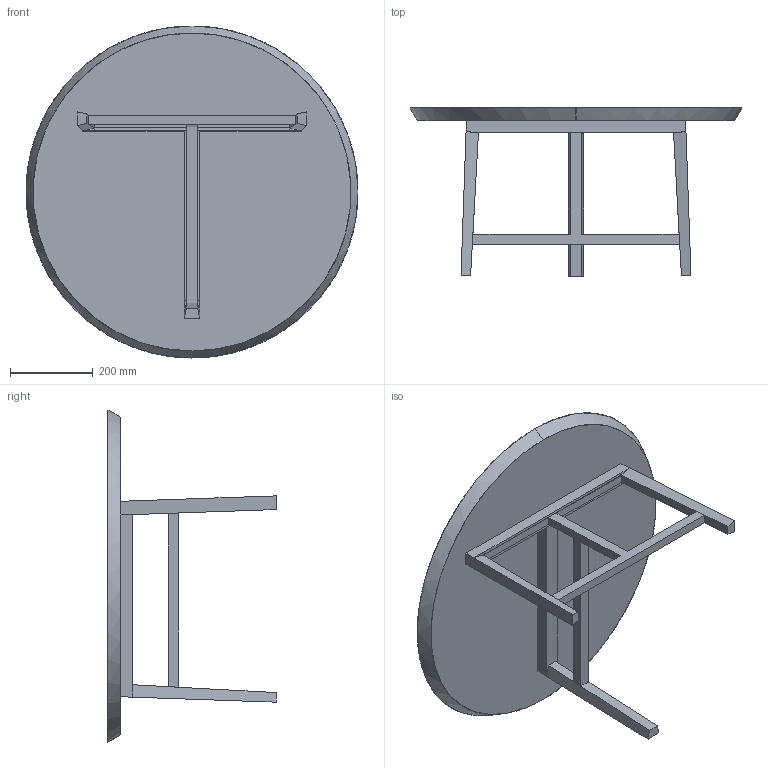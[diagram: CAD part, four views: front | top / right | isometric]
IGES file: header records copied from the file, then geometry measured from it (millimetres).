
Start section: SolidWorks IGES file using analytic representation for surfaces
Global section: file name: C:\Users\Kuma\Box Sync\Neri & Hu\754M Trio Round Coffee Table\sales related\3D IGES\754M Trio Round Coffee Table IGES.IGS; native system: SolidWorks 2016; preprocessor: SolidWorks 2016; author: kuma; date: 161111.134056; units: millimetre
Bounding box: 800 x 405 x 800 mm (x, y, z)
Surface area: 1336689.9 mm2 (no closed solid volume)
Topology: 0 solids, 0 shells, 48 faces, 470 edges, 470 vertices
Faces by surface type: bspline 46, revolution 2
